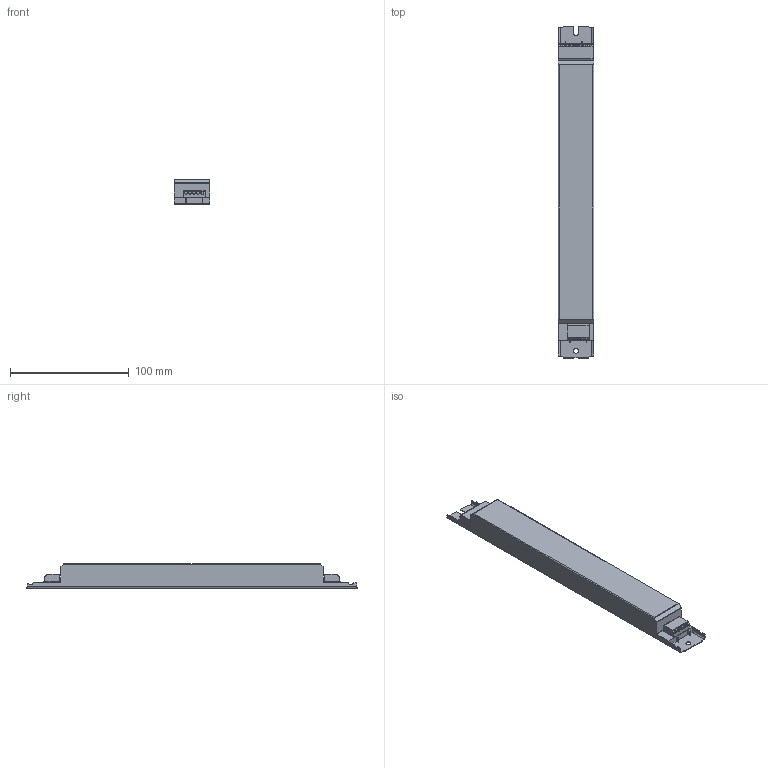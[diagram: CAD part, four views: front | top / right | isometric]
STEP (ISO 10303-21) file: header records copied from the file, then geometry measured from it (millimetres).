
FILE_DESCRIPTION((''),'2;1');
FILE_NAME('15007364Z','2012-12-10T',('juergen.hrach'),(''),'PRO/ENGINEER BY PARAMETRIC TECHNOLOGY CORPORATION, 2011310','PRO/ENGINEER BY PARAMETRIC TECHNOLOGY CORPORATION, 2011310','');
FILE_SCHEMA(('AUTOMOTIVE_DESIGN { 1 2 10303 214 0 1 1 1 }'));
Length unit declared in the file: millimetre
Products named in the file (1): 15007364Z
Bounding box: 30 x 280 x 21 mm (x, y, z)
Volume: 147649.9 mm3; surface area: 28418 mm2
Topology: 1 solids, 1 shells, 182 faces, 528 edges, 350 vertices
Faces by surface type: cylinder 92, plane 90
Entity records: 7972 total; most frequent: CARTESIAN_POINT 1412, ORIENTED_EDGE 1056, DIRECTION 976, PRESENTATION_STYLE_ASSIGNMENT 531, STYLED_ITEM 529, CURVE_STYLE 528, EDGE_CURVE 528, VERTEX_POINT 350
